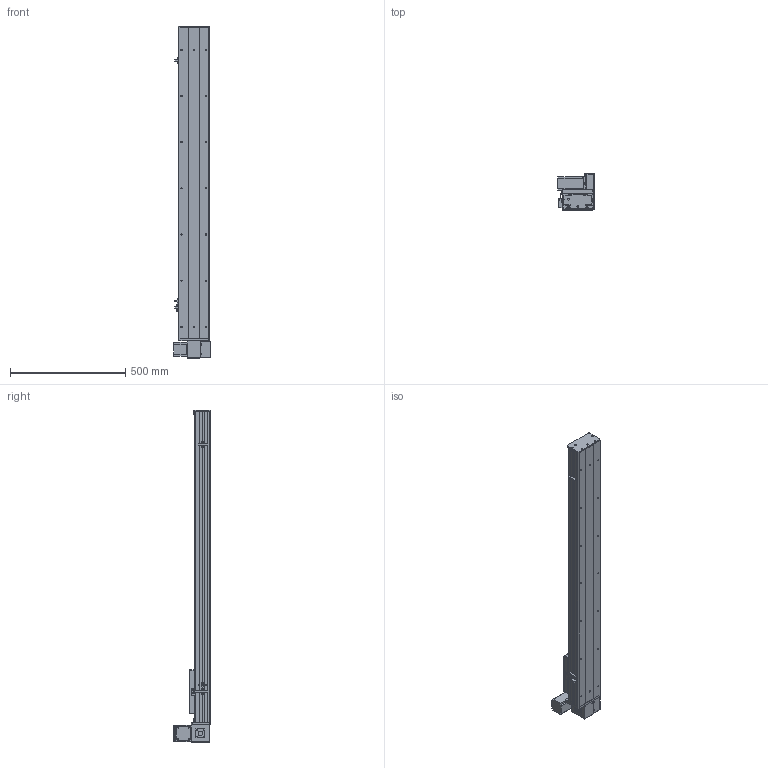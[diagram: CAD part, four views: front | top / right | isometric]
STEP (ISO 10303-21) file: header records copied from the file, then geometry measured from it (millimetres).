
FILE_DESCRIPTION (( 'STEP AP203' ), '1' );
FILE_NAME ('Y135CB-D90-S1050-UL-P400W.STEP', '2020-02-18T07:21:29', ( '微软用户' ), ( '微软中国' ), 'SwSTEP 2.0', 'SolidWorks 2017', '' );
FILE_SCHEMA (( 'CONFIG_CONTROL_DESIGN' ));
Length unit declared in the file: millimetre
Products named in the file (18): Y10B-耜蚾蟀諉啣----; san松下电机400不带刹车----; 00B-俋欶BM--; 5CB --掛极耜裔啣-; Y10B--々湍喘謫眊--666; C-詩湍揤踡え-陔; Y135CB-D90-S1050-UL-P400W; 135CB--詩湍-CE; 135CB---遴掛极.-; Y100-135俋离換覜ん--; 35CB---喘謫眊楊擘啣; Y135C-陔俋离換覜結え-; 0B-埴倛裔啣; 5C--俋欶; 0B-源倛裔啣; C-雄赽釱--; 0B-萇儂楊擘啣; Y135CB-耜裔
Assembly tree (21 placements, depth 2):
  Y135CB-D90-S1050-UL-P400W
    Y135CB-耜裔
    135CB---遴掛极.-
    35CB---喘謫眊楊擘啣
    0B-埴倛裔啣
    0B-源倛裔啣
    0B-萇儂楊擘啣
    san松下电机400不带刹车----
    5CB --掛极耜裔啣-  x2
    C-詩湍揤踡え-陔  x2
    135CB--詩湍-CE
    Y100-135俋离換覜ん--  x3
    Y135C-陔俋离換覜結え-
    5C--俋欶
    C-雄赽釱--
    Y10B-耜蚾蟀諉啣----
    00B-俋欶BM--
    Y10B--々湍喘謫眊--666
Bounding box: 157 x 158.7 x 1438 mm (x, y, z)
Volume: 4516355.2 mm3; surface area: 1768320.2 mm2
Topology: 21 solids, 21 shells, 945 faces, 2527 edges, 1674 vertices
Faces by surface type: cylinder 473, plane 456, cone 16
Entity records: 29349 total; most frequent: DIRECTION 4875, CARTESIAN_POINT 4812, ORIENTED_EDGE 4530, EDGE_CURVE 2265, AXIS2_PLACEMENT_3D 1777, VERTEX_POINT 1502, VECTOR 1321, LINE 1321
